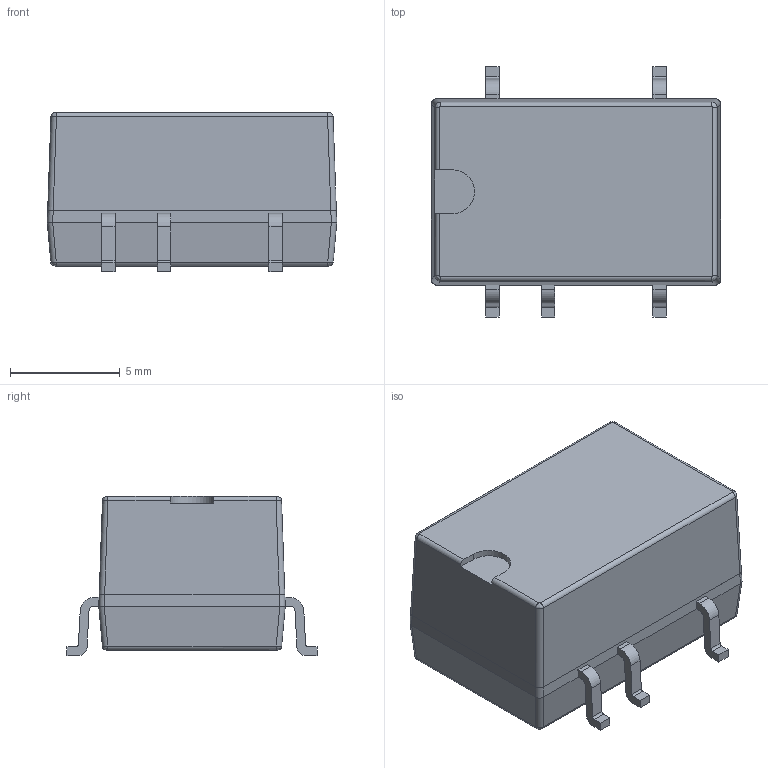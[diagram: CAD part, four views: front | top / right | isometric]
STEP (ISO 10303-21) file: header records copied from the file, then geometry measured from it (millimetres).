
FILE_DESCRIPTION (( 'STEP AP214' ), '1' );
FILE_NAME ('3D.STEP', '2022-11-10T14:44:41', ( '' ), ( '' ), 'SwSTEP 2.0', 'SolidWorks 2020', '' );
FILE_SCHEMA (( 'AUTOMOTIVE_DESIGN' ));
Length unit declared in the file: metre
Products named in the file (3): 2; 3D; B
Assembly tree (2 placements, depth 2):
  3D
    2
    B
Bounding box: 13.2 x 11.4 x 7.25 mm (x, y, z)
Volume: 436 mm3; surface area: 1037.4 mm2
Topology: 2 solids, 2 shells, 215 faces, 556 edges, 359 vertices
Faces by surface type: plane 123, cylinder 70, bspline 16, cone 4, torus 2
Entity records: 7305 total; most frequent: CARTESIAN_POINT 2080, ORIENTED_EDGE 1112, DIRECTION 1005, EDGE_CURVE 556, VECTOR 371, LINE 371, VERTEX_POINT 359, AXIS2_PLACEMENT_3D 317
